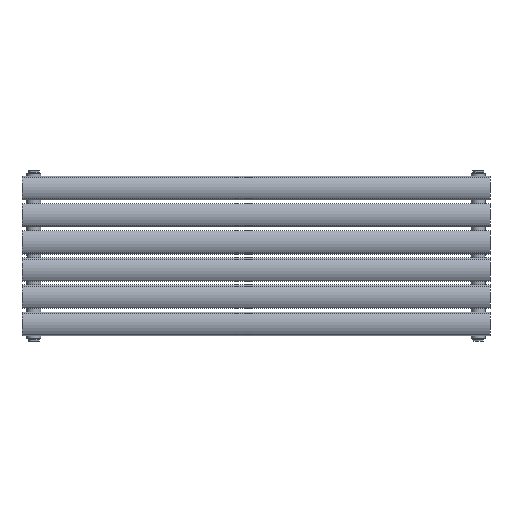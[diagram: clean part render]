
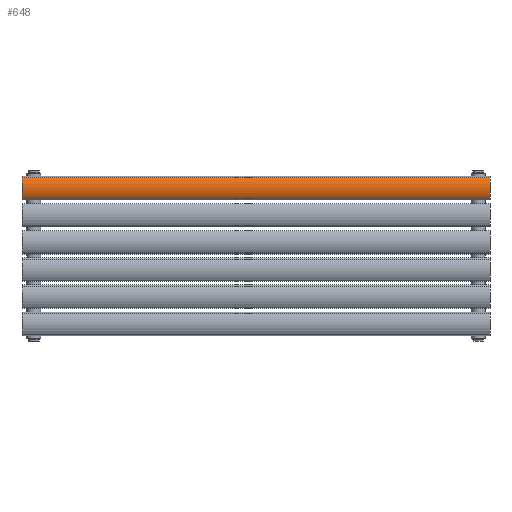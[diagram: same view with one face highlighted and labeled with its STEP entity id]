
A CAD part, top view. The second image highlights one B-rep face of the part: STEP entity #648.
In plain terms, the highlighted cylindrical face has radius 39.5 mm (diameter 79 mm), a partial arc.
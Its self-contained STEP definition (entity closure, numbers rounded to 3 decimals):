
#75=LINE('',#1472,#103);
#76=LINE('',#1475,#104);
#103=VECTOR('',#844,10.);
#104=VECTOR('',#847,10.);
#172=CIRCLE('',#732,39.5);
#175=CIRCLE('',#736,39.5);
#234=FACE_OUTER_BOUND('',#291,.T.);
#291=EDGE_LOOP('',(#520,#521,#522,#523));
#361=VERTEX_POINT('',#1463);
#362=VERTEX_POINT('',#1465);
#364=VERTEX_POINT('',#1471);
#365=VERTEX_POINT('',#1473);
#420=EDGE_CURVE('',#361,#362,#172,.T.);
#423=EDGE_CURVE('',#364,#361,#75,.T.);
#424=EDGE_CURVE('',#365,#364,#175,.T.);
#425=EDGE_CURVE('',#362,#365,#76,.T.);
#520=ORIENTED_EDGE('',*,*,#423,.F.);
#521=ORIENTED_EDGE('',*,*,#424,.F.);
#522=ORIENTED_EDGE('',*,*,#425,.F.);
#523=ORIENTED_EDGE('',*,*,#420,.F.);
#630=CYLINDRICAL_SURFACE('',#735,39.5);
#648=ADVANCED_FACE('',(#234),#630,.T.);
#732=AXIS2_PLACEMENT_3D('',#1466,#836,#837);
#735=AXIS2_PLACEMENT_3D('',#1470,#842,#843);
#736=AXIS2_PLACEMENT_3D('',#1474,#845,#846);
#836=DIRECTION('center_axis',(0.,0.,-1.));
#837=DIRECTION('ref_axis',(-0.552,-0.834,0.));
#842=DIRECTION('center_axis',(0.,0.,1.));
#843=DIRECTION('ref_axis',(-0.552,-0.834,0.));
#844=DIRECTION('',(0.,0.,-1.));
#845=DIRECTION('center_axis',(0.,0.,1.));
#846=DIRECTION('ref_axis',(-0.552,-0.834,0.));
#847=DIRECTION('',(0.,0.,1.));
#1463=CARTESIAN_POINT('',(21.816,-18.429,-500.));
#1465=CARTESIAN_POINT('',(-21.816,-18.429,-500.));
#1466=CARTESIAN_POINT('Origin',(0.,14.5,-500.));
#1470=CARTESIAN_POINT('Origin',(0.,14.5,0.));
#1471=CARTESIAN_POINT('',(21.816,-18.429,500.));
#1472=CARTESIAN_POINT('',(21.816,-18.429,0.));
#1473=CARTESIAN_POINT('',(-21.816,-18.429,500.));
#1474=CARTESIAN_POINT('Origin',(0.,14.5,500.));
#1475=CARTESIAN_POINT('',(-21.816,-18.429,0.));
